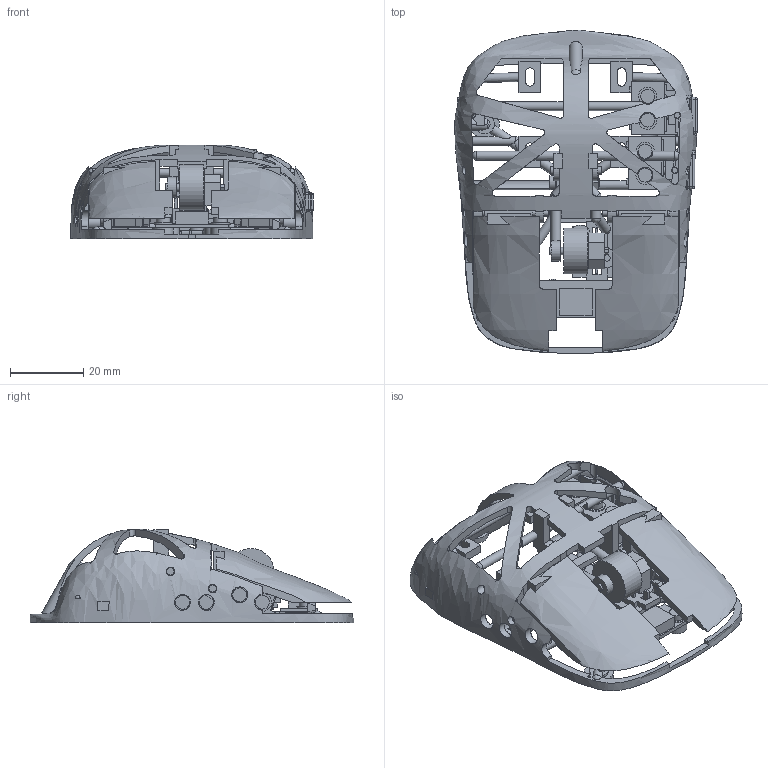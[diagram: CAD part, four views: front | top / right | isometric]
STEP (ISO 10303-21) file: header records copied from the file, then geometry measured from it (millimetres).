
FILE_DESCRIPTION(('Open CASCADE Model'),'2;1');
FILE_NAME('Open CASCADE Shape Model','2026-10-17T02:25:05',('Author'),( 'Open CASCADE'),'Open CASCADE STEP processor 7.9','Open CASCADE 7.9' ,'Unknown');
FILE_SCHEMA(('AUTOMOTIVE_DESIGN { 1 0 10303 214 1 1 1 1 }'));
Length unit declared in the file: millimetre
Products named in the file (73): R3_1_MECHANICAL_FULL; BODY; LEFT_KEY; RIGHT_KEY; SIDE_FRONT_KEY; SIDE_FRONT_KEY_SWITCH_CLAMP; SIDE_REAR_KEY; SIDE_REAR_KEY_SWITCH_CLAMP; WHEEL; WHEEL_CARRIER; LEFT_KEY_STEEL_PIN; LEFT_KEY_M2_SWITCH_1_BOLT; LEFT_KEY_M2_SWITCH_1_WASHER_NUT; LEFT_KEY_M2_SWITCH_1_WASHER_HEAD; LEFT_KEY_M2_SWITCH_1_NUT; LEFT_KEY_M2_SWITCH_2_BOLT; LEFT_KEY_M2_SWITCH_2_WASHER_NUT; LEFT_KEY_M2_SWITCH_2_WASHER_HEAD; LEFT_KEY_M2_SWITCH_2_NUT; SWITCH_LEFT; RIGHT_KEY_STEEL_PIN; RIGHT_KEY_M2_SWITCH_1_BOLT; RIGHT_KEY_M2_SWITCH_1_WASHER_NUT; RIGHT_KEY_M2_SWITCH_1_WASHER_HEAD; RIGHT_KEY_M2_SWITCH_1_NUT; RIGHT_KEY_M2_SWITCH_2_BOLT; RIGHT_KEY_M2_SWITCH_2_WASHER_NUT; RIGHT_KEY_M2_SWITCH_2_WASHER_HEAD; RIGHT_KEY_M2_SWITCH_2_NUT; SWITCH_RIGHT; SIDE_FRONT_KEY_CAPTURE_PIN; SIDE_FRONT_KEY_M2_SWITCH_1_BOLT; SIDE_FRONT_KEY_M2_SWITCH_1_WASHER_NUT; SIDE_FRONT_KEY_M2_SWITCH_1_WASHER_HEAD; SIDE_FRONT_KEY_M2_SWITCH_1_NUT; SIDE_FRONT_KEY_M2_SWITCH_2_BOLT; SIDE_FRONT_KEY_M2_SWITCH_2_WASHER_NUT; SIDE_FRONT_KEY_M2_SWITCH_2_WASHER_HEAD; SIDE_FRONT_KEY_M2_SWITCH_2_NUT; SWITCH_SIDE_FRONT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
Assembly tree (72 placements, depth 2):
  R3_1_MECHANICAL_FULL
    BODY
    LEFT_KEY
    RIGHT_KEY
    SIDE_FRONT_KEY
    SIDE_FRONT_KEY_SWITCH_CLAMP
    SIDE_REAR_KEY
    SIDE_REAR_KEY_SWITCH_CLAMP
    WHEEL
    WHEEL_CARRIER
    LEFT_KEY_STEEL_PIN
    LEFT_KEY_M2_SWITCH_1_BOLT
    LEFT_KEY_M2_SWITCH_1_WASHER_NUT
    LEFT_KEY_M2_SWITCH_1_WASHER_HEAD
    LEFT_KEY_M2_SWITCH_1_NUT
    LEFT_KEY_M2_SWITCH_2_BOLT
    LEFT_KEY_M2_SWITCH_2_WASHER_NUT
    LEFT_KEY_M2_SWITCH_2_WASHER_HEAD
    LEFT_KEY_M2_SWITCH_2_NUT
    SWITCH_LEFT
    RIGHT_KEY_STEEL_PIN
    RIGHT_KEY_M2_SWITCH_1_BOLT
    RIGHT_KEY_M2_SWITCH_1_WASHER_NUT
    RIGHT_KEY_M2_SWITCH_1_WASHER_HEAD
    RIGHT_KEY_M2_SWITCH_1_NUT
    RIGHT_KEY_M2_SWITCH_2_BOLT
    RIGHT_KEY_M2_SWITCH_2_WASHER_NUT
    RIGHT_KEY_M2_SWITCH_2_WASHER_HEAD
    RIGHT_KEY_M2_SWITCH_2_NUT
    SWITCH_RIGHT
    SIDE_FRONT_KEY_CAPTURE_PIN
    SIDE_FRONT_KEY_M2_SWITCH_1_BOLT
    SIDE_FRONT_KEY_M2_SWITCH_1_WASHER_NUT
    SIDE_FRONT_KEY_M2_SWITCH_1_WASHER_HEAD
    SIDE_FRONT_KEY_M2_SWITCH_1_NUT
    SIDE_FRONT_KEY_M2_SWITCH_2_BOLT
    SIDE_FRONT_KEY_M2_SWITCH_2_WASHER_NUT
    SIDE_FRONT_KEY_M2_SWITCH_2_WASHER_HEAD
    SIDE_FRONT_KEY_M2_SWITCH_2_NUT
    SWITCH_SIDE_FRONT
    SIDE_REAR_KEY_CAPTURE_PIN
    SIDE_REAR_KEY_M2_SWITCH_1_BOLT
    SIDE_REAR_KEY_M2_SWITCH_1_WASHER_NUT
    SIDE_REAR_KEY_M2_SWITCH_1_WASHER_HEAD
    SIDE_REAR_KEY_M2_SWITCH_1_NUT
    SIDE_REAR_KEY_M2_SWITCH_2_BOLT
    SIDE_REAR_KEY_M2_SWITCH_2_WASHER_NUT
    SIDE_REAR_KEY_M2_SWITCH_2_WASHER_HEAD
    SIDE_REAR_KEY_M2_SWITCH_2_NUT
    SWITCH_SIDE_REAR
    ENCODER_EC10E_HOUSING
    ENCODER_EC10E_ROTOR
    WHEEL_CARRIER_STEEL_PIN
    SWITCH_MIDDLE
    WHEEL_M2_SWITCH_1_BOLT
    WHEEL_M2_SWITCH_1_WASHER_NUT
    WHEEL_M2_SWITCH_1_WASHER_HEAD
    WHEEL_M2_SWITCH_1_NUT
    WHEEL_M2_SWITCH_2_BOLT
    WHEEL_M2_SWITCH_2_WASHER_NUT
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Bounding box: 66.18 x 88.24 x 25.48 mm (x, y, z)
Volume: 23461.5 mm3; surface area: 32922.7 mm2
Topology: 72 solids, 72 shells, 1555 faces, 4167 edges, 2715 vertices
Faces by surface type: plane 1103, cylinder 374, sphere 68, bspline 10
Full cylindrical faces by diameter (mm): 1.25 x6, 1.5 x2, 1.7 x6, 1.72 x2, 2 x40, 2.2 x24, 2.3 x2, 2.35 x13, 2.4 x30, 2.5 x3, 2.6 x11, 2.7 x7, 2.98 x1, 3.2 x3, 3.8 x14, 4.2 x2, 4.3 x3, 5 x22, 5.2 x4, 5.3 x2, 12.5 x1
Entity records: 284427 total; most frequent: CARTESIAN_POINT 203327, DIRECTION 13880, LINE 8364, VECTOR 8364, ORIENTED_EDGE 8248, PCURVE 8248, DEFINITIONAL_REPRESENTATION 8248, EDGE_CURVE 4124
